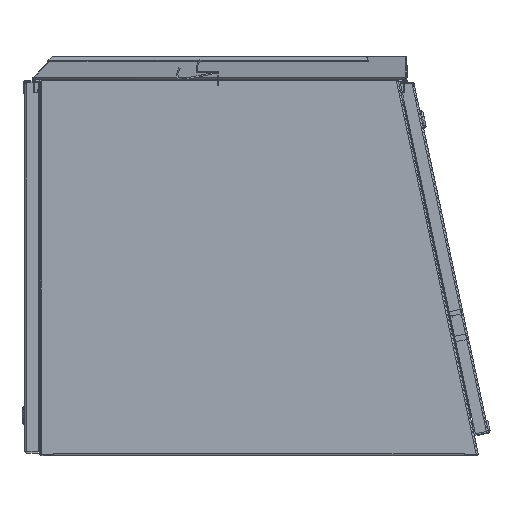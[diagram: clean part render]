
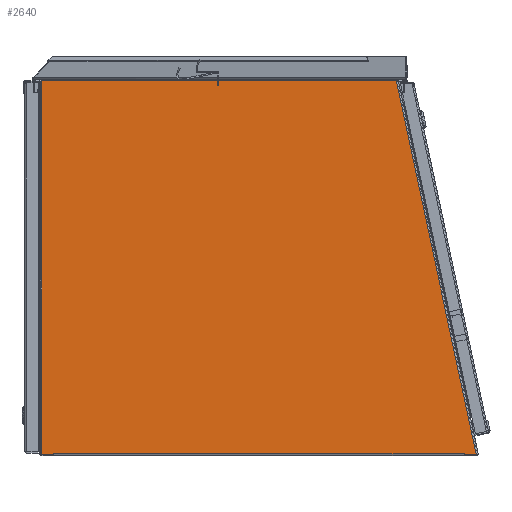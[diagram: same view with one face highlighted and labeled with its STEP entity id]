
A CAD part, left-side view. The second image highlights one B-rep face of the part: STEP entity #2640.
In plain terms, the highlighted planar face has unit normal (-1, 0, 0) as drawn and (0, 0, -1) by its records, which use the part's own axes.
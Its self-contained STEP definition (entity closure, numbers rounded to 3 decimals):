
#2640 = ADVANCED_FACE( '', ( #3819 ), #3820, .T. );
#3819 = FACE_OUTER_BOUND( '', #6132, .T. );
#3820 = PLANE( '', #6133 );
#6132 = EDGE_LOOP( '', ( #10721, #10722, #10723, #10724, #10725, #10726, #10727, #10728, #10729, #10730 ) );
#6133 = AXIS2_PLACEMENT_3D( '', #10731, #10732, #10733 );
#10721 = ORIENTED_EDGE( '', *, *, #15751, .T. );
#10722 = ORIENTED_EDGE( '', *, *, #15648, .F. );
#10723 = ORIENTED_EDGE( '', *, *, #15636, .T. );
#10724 = ORIENTED_EDGE( '', *, *, #15752, .T. );
#10725 = ORIENTED_EDGE( '', *, *, #15750, .F. );
#10726 = ORIENTED_EDGE( '', *, *, #15753, .F. );
#10727 = ORIENTED_EDGE( '', *, *, #15754, .F. );
#10728 = ORIENTED_EDGE( '', *, *, #15726, .F. );
#10729 = ORIENTED_EDGE( '', *, *, #15638, .F. );
#10730 = ORIENTED_EDGE( '', *, *, #15755, .F. );
#10731 = CARTESIAN_POINT( '', ( -296.069, -252.171, 0. ) );
#10732 = DIRECTION( '', ( 0., 0., -1. ) );
#10733 = DIRECTION( '', ( 1., 0., 0. ) );
#15636 = EDGE_CURVE( '', #17861, #17865, #17867, .T. );
#15638 = EDGE_CURVE( '', #17869, #17871, #17872, .T. );
#15648 = EDGE_CURVE( '', #17861, #17884, #17890, .T. );
#15726 = EDGE_CURVE( '', #17871, #18017, #18020, .T. );
#15750 = EDGE_CURVE( '', #18052, #18048, #18054, .T. );
#15751 = EDGE_CURVE( '', #18055, #17884, #18056, .T. );
#15752 = EDGE_CURVE( '', #17865, #18048, #18057, .T. );
#15753 = EDGE_CURVE( '', #18058, #18052, #18059, .T. );
#15754 = EDGE_CURVE( '', #18017, #18058, #18060, .T. );
#15755 = EDGE_CURVE( '', #18055, #17869, #18061, .T. );
#17861 = VERTEX_POINT( '', #21669 );
#17865 = VERTEX_POINT( '', #21675 );
#17867 = LINE( '', #21678, #21679 );
#17869 = VERTEX_POINT( '', #21681 );
#17871 = VERTEX_POINT( '', #21684 );
#17872 = LINE( '', #21685, #21686 );
#17884 = VERTEX_POINT( '', #21702 );
#17890 = LINE( '', #21709, #21710 );
#18017 = VERTEX_POINT( '', #21957 );
#18020 = LINE( '', #21970, #21971 );
#18048 = VERTEX_POINT( '', #22023 );
#18052 = VERTEX_POINT( '', #22029 );
#18054 = LINE( '', #22032, #22033 );
#18055 = VERTEX_POINT( '', #22034 );
#18056 = LINE( '', #22035, #22036 );
#18057 = LINE( '', #22037, #22038 );
#18058 = VERTEX_POINT( '', #22039 );
#18059 = LINE( '', #22040, #22041 );
#18060 = LINE( '', #22042, #22043 );
#18061 = LINE( '', #22044, #22045 );
#21669 = CARTESIAN_POINT( '', ( -276.829, -251.257, 0. ) );
#21675 = CARTESIAN_POINT( '', ( -277.591, -251.257, 0. ) );
#21678 = CARTESIAN_POINT( '', ( -277.591, -251.257, 0. ) );
#21679 = VECTOR( '', #26579, 1000. );
#21681 = CARTESIAN_POINT( '', ( 277.653, -252.171, 0. ) );
#21684 = CARTESIAN_POINT( '', ( 293.326, -252.171, 0. ) );
#21685 = CARTESIAN_POINT( '', ( -296.069, -252.171, 0. ) );
#21686 = VECTOR( '', #26581, 1000. );
#21702 = CARTESIAN_POINT( '', ( 276.891, -251.257, 0. ) );
#21709 = CARTESIAN_POINT( '', ( -276.829, -251.257, 0. ) );
#21710 = VECTOR( '', #26599, 1000. );
#21957 = CARTESIAN_POINT( '', ( 293.326, 252.171, 0. ) );
#21970 = CARTESIAN_POINT( '', ( 293.326, -252.171, 0. ) );
#21971 = VECTOR( '', #26670, 1000. );
#22023 = CARTESIAN_POINT( '', ( -277.591, -252.171, 0. ) );
#22029 = CARTESIAN_POINT( '', ( -293.263, -252.171, 0. ) );
#22032 = CARTESIAN_POINT( '', ( -296.069, -252.171, 0. ) );
#22033 = VECTOR( '', #26693, 1000. );
#22034 = CARTESIAN_POINT( '', ( 277.653, -251.257, 0. ) );
#22035 = CARTESIAN_POINT( '', ( -277.591, -251.257, 0. ) );
#22036 = VECTOR( '', #26694, 1000. );
#22037 = CARTESIAN_POINT( '', ( -277.591, -252.171, 0. ) );
#22038 = VECTOR( '', #26695, 1000. );
#22039 = CARTESIAN_POINT( '', ( -185.313, 252.171, 0. ) );
#22040 = CARTESIAN_POINT( '', ( -185.313, 252.171, 0. ) );
#22041 = VECTOR( '', #26696, 1000. );
#22042 = CARTESIAN_POINT( '', ( 296.069, 252.171, 0. ) );
#22043 = VECTOR( '', #26697, 1000. );
#22044 = CARTESIAN_POINT( '', ( 277.653, -252.171, 0. ) );
#22045 = VECTOR( '', #26698, 1000. );
#26579 = DIRECTION( '', ( -1., 0., 0. ) );
#26581 = DIRECTION( '', ( 1., 0., 0. ) );
#26599 = DIRECTION( '', ( 1., 0., 0. ) );
#26670 = DIRECTION( '', ( 0., 1., 0. ) );
#26693 = DIRECTION( '', ( 1., 0., 0. ) );
#26694 = DIRECTION( '', ( -1., 0., 0. ) );
#26695 = DIRECTION( '', ( 0., -1., 0. ) );
#26696 = DIRECTION( '', ( -0.209, -0.978, 0. ) );
#26697 = DIRECTION( '', ( -1., 0., 0. ) );
#26698 = DIRECTION( '', ( 0., -1., 0. ) );
